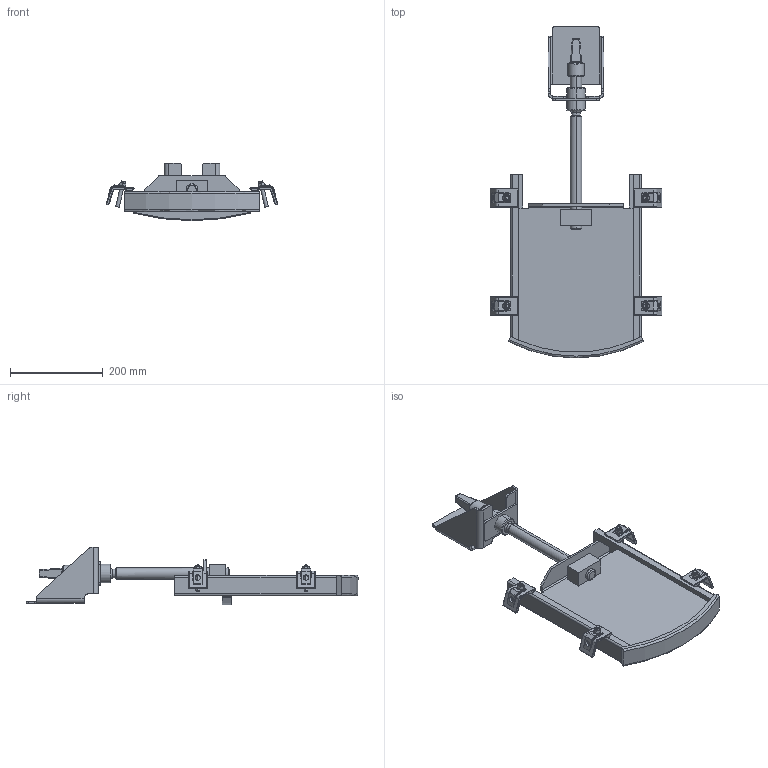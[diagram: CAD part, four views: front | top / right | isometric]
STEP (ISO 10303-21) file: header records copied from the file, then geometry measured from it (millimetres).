
FILE_DESCRIPTION (( 'STEP AP214' ), '1' );
FILE_NAME ('LW 200 Schacht1000 betoniert.STEP', '2022-05-19T09:55:28', ( '' ), ( '' ), 'SwSTEP 2.0', 'SolidWorks 2021', '' );
FILE_SCHEMA (( 'AUTOMOTIVE_DESIGN' ));
Length unit declared in the file: millimetre
Products named in the file (1): LW 200 Schacht1000 betoniert
Bounding box: 369.38 x 715 x 123.57 mm (x, y, z)
Volume: 1887797.6 mm3; surface area: 526907.9 mm2
Topology: 1 solids, 5 shells, 781 faces, 1846 edges, 1040 vertices
Faces by surface type: cylinder 301, plane 248, cone 62, sphere 60, torus 56, bspline 54
Entity records: 32627 total; most frequent: CARTESIAN_POINT 6750, DIRECTION 3712, ORIENTED_EDGE 3572, EDGE_CURVE 1786, AXIS2_PLACEMENT_3D 1454, VERTEX_POINT 1032, EDGE_LOOP 828, VECTOR 804
